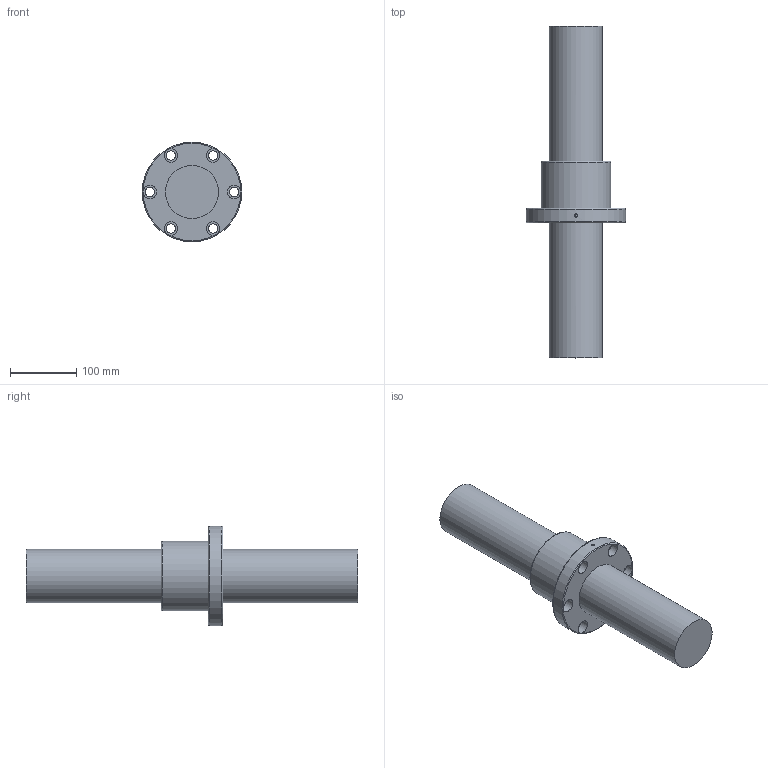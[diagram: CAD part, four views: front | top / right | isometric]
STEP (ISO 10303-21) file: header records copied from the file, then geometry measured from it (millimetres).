
FILE_DESCRIPTION (( 'STEP AP203' ), '1' );
FILE_NAME ('SFNI8010.STEP', '2023-06-06T07:29:00', ( '' ), ( '' ), 'SwSTEP 2.0', 'SolidWorks 2022', '' );
FILE_SCHEMA (( 'CONFIG_CONTROL_DESIGN' ));
Length unit declared in the file: millimetre
Products named in the file (1): SFNI8010
Bounding box: 150 x 500 x 150 mm (x, y, z)
Volume: 3016810.4 mm3; surface area: 223275.7 mm2
Topology: 2 solids, 2 shells, 34 faces, 66 edges, 44 vertices
Faces by surface type: cylinder 19, plane 12, torus 3
Full cylindrical faces by diameter (mm): 4 x1, 5 x1, 14 x6, 20 x6, 80 x2, 105 x1, 150 x1
Entity records: 1133 total; most frequent: CARTESIAN_POINT 399, DIRECTION 145, ORIENTED_EDGE 82, EDGE_LOOP 80, AXIS2_PLACEMENT_3D 72, FACE_OUTER_BOUND 55, EDGE_CURVE 41, VERTEX_POINT 41
